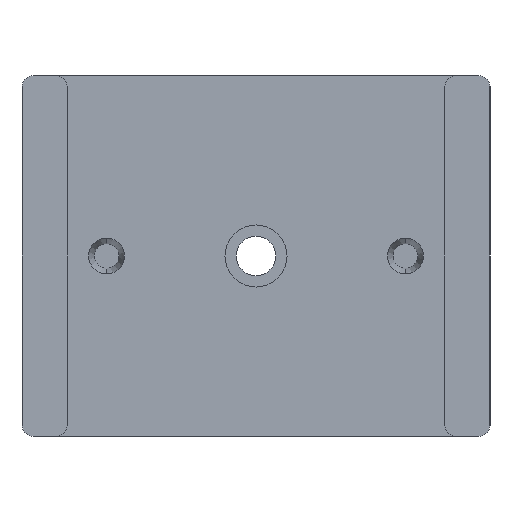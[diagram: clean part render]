
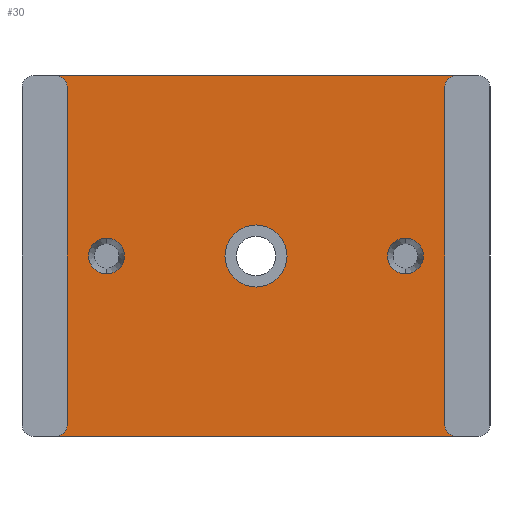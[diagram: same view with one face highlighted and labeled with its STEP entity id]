
A CAD part, front view. The second image highlights one B-rep face of the part: STEP entity #30.
In plain terms, the highlighted planar face has unit normal (0, -1, 0).
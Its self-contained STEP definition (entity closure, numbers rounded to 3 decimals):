
#30 = ADVANCED_FACE ( 'NONE', ( #596, #665, #176, #75 ), #1009, .F. ) ;
#38 = VECTOR ( 'NONE', #120, 1000. ) ;
#68 = CARTESIAN_POINT ( 'NONE',  ( 0., -16., 0. ) ) ;
#74 = CIRCLE ( 'NONE', #88, 2. ) ;
#75 = FACE_OUTER_BOUND ( 'NONE', #748, .T. ) ;
#88 = AXIS2_PLACEMENT_3D ( 'NONE', #875, #564, #329 ) ;
#89 = CARTESIAN_POINT ( 'NONE',  ( -33.5, -16., 30. ) ) ;
#91 = CARTESIAN_POINT ( 'NONE',  ( -33.5, -16., -30. ) ) ;
#94 = CIRCLE ( 'NONE', #664, 3.183 ) ;
#118 = CARTESIAN_POINT ( 'NONE',  ( 35.5, -16., 30. ) ) ;
#120 = DIRECTION ( 'NONE',  ( 1., 0., 0. ) ) ;
#128 = DIRECTION ( 'NONE',  ( 0., 1., 0. ) ) ;
#136 = DIRECTION ( 'NONE',  ( 0., 1., 0. ) ) ;
#137 = DIRECTION ( 'NONE',  ( 0., 0., 1. ) ) ;
#145 = CARTESIAN_POINT ( 'NONE',  ( -26.5, -16., -3.183 ) ) ;
#147 = VERTEX_POINT ( 'NONE', #266 ) ;
#161 = CIRCLE ( 'NONE', #586, 2. ) ;
#176 = FACE_BOUND ( 'NONE', #278, .T. ) ;
#183 = EDGE_CURVE ( 'NONE', #807, #994, #989, .T. ) ;
#190 = ORIENTED_EDGE ( 'NONE', *, *, #782, .T. ) ;
#198 = VERTEX_POINT ( 'NONE', #829 ) ;
#204 = CARTESIAN_POINT ( 'NONE',  ( -41.5, -16., -32. ) ) ;
#207 = DIRECTION ( 'NONE',  ( 0., 1., 0. ) ) ;
#211 = DIRECTION ( 'NONE',  ( 0., 0., 1. ) ) ;
#212 = EDGE_LOOP ( 'NONE', ( #448, #626 ) ) ;
#230 = DIRECTION ( 'NONE',  ( 0., 0., 1. ) ) ;
#241 = ORIENTED_EDGE ( 'NONE', *, *, #242, .T. ) ;
#242 = EDGE_CURVE ( 'NONE', #566, #402, #161, .T. ) ;
#257 = VECTOR ( 'NONE', #798, 1000. ) ;
#266 = CARTESIAN_POINT ( 'NONE',  ( 0., -16., 5.5 ) ) ;
#267 = CARTESIAN_POINT ( 'NONE',  ( 0., -16., 0. ) ) ;
#271 = CARTESIAN_POINT ( 'NONE',  ( 0., -16., -5.5 ) ) ;
#278 = EDGE_LOOP ( 'NONE', ( #947, #190 ) ) ;
#300 = EDGE_CURVE ( 'NONE', #587, #402, #767, .T. ) ;
#329 = DIRECTION ( 'NONE',  ( 0., 0., 1. ) ) ;
#341 = DIRECTION ( 'NONE',  ( 0., 1., 0. ) ) ;
#372 = DIRECTION ( 'NONE',  ( 0., 0., 1. ) ) ;
#375 = CARTESIAN_POINT ( 'NONE',  ( 0., -16., 0. ) ) ;
#379 = EDGE_CURVE ( 'NONE', #1007, #745, #676, .T. ) ;
#381 = DIRECTION ( 'NONE',  ( 0., 0., 1. ) ) ;
#383 = DIRECTION ( 'NONE',  ( 0., 0., -1. ) ) ;
#388 = ORIENTED_EDGE ( 'NONE', *, *, #952, .T. ) ;
#393 = VERTEX_POINT ( 'NONE', #89 ) ;
#400 = CARTESIAN_POINT ( 'NONE',  ( 33.5, -16., 32. ) ) ;
#402 = VERTEX_POINT ( 'NONE', #488 ) ;
#426 = DIRECTION ( 'NONE',  ( 0., 0., -1. ) ) ;
#438 = EDGE_CURVE ( 'NONE', #566, #393, #1004, .T. ) ;
#448 = ORIENTED_EDGE ( 'NONE', *, *, #979, .T. ) ;
#451 = AXIS2_PLACEMENT_3D ( 'NONE', #786, #861, #1025 ) ;
#475 = VERTEX_POINT ( 'NONE', #809 ) ;
#479 = DIRECTION ( 'NONE',  ( 0., 0., -1. ) ) ;
#486 = VECTOR ( 'NONE', #585, 1000. ) ;
#488 = CARTESIAN_POINT ( 'NONE',  ( -35.5, -16., -32. ) ) ;
#489 = EDGE_CURVE ( 'NONE', #587, #475, #74, .T. ) ;
#491 = DIRECTION ( 'NONE',  ( 0., 0., 1. ) ) ;
#536 = CARTESIAN_POINT ( 'NONE',  ( -26.5, -16., 0. ) ) ;
#564 = DIRECTION ( 'NONE',  ( 0., 1., 0. ) ) ;
#565 = ORIENTED_EDGE ( 'NONE', *, *, #183, .F. ) ;
#566 = VERTEX_POINT ( 'NONE', #91 ) ;
#577 = CARTESIAN_POINT ( 'NONE',  ( -33.5, -16., 32. ) ) ;
#585 = DIRECTION ( 'NONE',  ( -1., 0., 0. ) ) ;
#586 = AXIS2_PLACEMENT_3D ( 'NONE', #672, #128, #211 ) ;
#587 = VERTEX_POINT ( 'NONE', #944 ) ;
#596 = FACE_BOUND ( 'NONE', #1010, .T. ) ;
#600 = ORIENTED_EDGE ( 'NONE', *, *, #816, .T. ) ;
#614 = VERTEX_POINT ( 'NONE', #271 ) ;
#619 = CARTESIAN_POINT ( 'NONE',  ( 26.5, -16., -3.183 ) ) ;
#626 = ORIENTED_EDGE ( 'NONE', *, *, #379, .T. ) ;
#627 = ORIENTED_EDGE ( 'NONE', *, *, #675, .F. ) ;
#630 = CARTESIAN_POINT ( 'NONE',  ( -26.5, -16., 0. ) ) ;
#658 = CIRCLE ( 'NONE', #890, 3.183 ) ;
#664 = AXIS2_PLACEMENT_3D ( 'NONE', #630, #783, #867 ) ;
#665 = FACE_BOUND ( 'NONE', #212, .T. ) ;
#667 = AXIS2_PLACEMENT_3D ( 'NONE', #536, #922, #230 ) ;
#668 = ORIENTED_EDGE ( 'NONE', *, *, #489, .T. ) ;
#671 = CARTESIAN_POINT ( 'NONE',  ( -41.5, -16., 32. ) ) ;
#672 = CARTESIAN_POINT ( 'NONE',  ( -35.5, -16., -30. ) ) ;
#675 = EDGE_CURVE ( 'NONE', #147, #614, #750, .T. ) ;
#676 = CIRCLE ( 'NONE', #1027, 3.183 ) ;
#681 = CARTESIAN_POINT ( 'NONE',  ( 26.5, -16., 3.183 ) ) ;
#684 = AXIS2_PLACEMENT_3D ( 'NONE', #118, #207, #137 ) ;
#685 = CARTESIAN_POINT ( 'NONE',  ( -26.5, -16., 3.183 ) ) ;
#727 = VERTEX_POINT ( 'NONE', #145 ) ;
#742 = AXIS2_PLACEMENT_3D ( 'NONE', #267, #810, #426 ) ;
#745 = VERTEX_POINT ( 'NONE', #619 ) ;
#748 = EDGE_LOOP ( 'NONE', ( #957, #388, #565, #600, #925, #241, #837, #668 ) ) ;
#750 = CIRCLE ( 'NONE', #742, 5.5 ) ;
#752 = CARTESIAN_POINT ( 'NONE',  ( 35.5, -16., 32. ) ) ;
#755 = DIRECTION ( 'NONE',  ( 0., 1., 0. ) ) ;
#767 = LINE ( 'NONE', #204, #486 ) ;
#770 = EDGE_CURVE ( 'NONE', #614, #147, #984, .T. ) ;
#773 = DIRECTION ( 'NONE',  ( 0., -1., 0. ) ) ;
#780 = CARTESIAN_POINT ( 'NONE',  ( -35.5, -16., 32. ) ) ;
#782 = EDGE_CURVE ( 'NONE', #973, #727, #868, .T. ) ;
#783 = DIRECTION ( 'NONE',  ( 0., 1., 0. ) ) ;
#786 = CARTESIAN_POINT ( 'NONE',  ( -35.5, -16., 30. ) ) ;
#791 = LINE ( 'NONE', #400, #856 ) ;
#798 = DIRECTION ( 'NONE',  ( 0., 0., 1. ) ) ;
#800 = CARTESIAN_POINT ( 'NONE',  ( 26.5, -16., 0. ) ) ;
#807 = VERTEX_POINT ( 'NONE', #780 ) ;
#809 = CARTESIAN_POINT ( 'NONE',  ( 33.5, -16., -30. ) ) ;
#810 = DIRECTION ( 'NONE',  ( 0., -1., 0. ) ) ;
#816 = EDGE_CURVE ( 'NONE', #807, #393, #846, .T. ) ;
#829 = CARTESIAN_POINT ( 'NONE',  ( 33.5, -16., 30. ) ) ;
#833 = EDGE_CURVE ( 'NONE', #727, #973, #94, .T. ) ;
#837 = ORIENTED_EDGE ( 'NONE', *, *, #300, .F. ) ;
#846 = CIRCLE ( 'NONE', #451, 2. ) ;
#856 = VECTOR ( 'NONE', #479, 1000. ) ;
#861 = DIRECTION ( 'NONE',  ( 0., 1., 0. ) ) ;
#864 = ORIENTED_EDGE ( 'NONE', *, *, #770, .F. ) ;
#867 = DIRECTION ( 'NONE',  ( 0., 0., 1. ) ) ;
#868 = CIRCLE ( 'NONE', #667, 3.183 ) ;
#870 = EDGE_CURVE ( 'NONE', #198, #475, #791, .T. ) ;
#875 = CARTESIAN_POINT ( 'NONE',  ( 35.5, -16., -30. ) ) ;
#890 = AXIS2_PLACEMENT_3D ( 'NONE', #899, #755, #372 ) ;
#892 = AXIS2_PLACEMENT_3D ( 'NONE', #375, #136, #381 ) ;
#899 = CARTESIAN_POINT ( 'NONE',  ( 26.5, -16., 0. ) ) ;
#922 = DIRECTION ( 'NONE',  ( 0., 1., 0. ) ) ;
#925 = ORIENTED_EDGE ( 'NONE', *, *, #438, .F. ) ;
#944 = CARTESIAN_POINT ( 'NONE',  ( 35.5, -16., -32. ) ) ;
#947 = ORIENTED_EDGE ( 'NONE', *, *, #833, .T. ) ;
#948 = AXIS2_PLACEMENT_3D ( 'NONE', #68, #773, #383 ) ;
#952 = EDGE_CURVE ( 'NONE', #198, #994, #963, .T. ) ;
#957 = ORIENTED_EDGE ( 'NONE', *, *, #870, .F. ) ;
#963 = CIRCLE ( 'NONE', #684, 2. ) ;
#973 = VERTEX_POINT ( 'NONE', #685 ) ;
#979 = EDGE_CURVE ( 'NONE', #745, #1007, #658, .T. ) ;
#984 = CIRCLE ( 'NONE', #948, 5.5 ) ;
#989 = LINE ( 'NONE', #671, #38 ) ;
#994 = VERTEX_POINT ( 'NONE', #752 ) ;
#1004 = LINE ( 'NONE', #577, #257 ) ;
#1007 = VERTEX_POINT ( 'NONE', #681 ) ;
#1009 = PLANE ( 'NONE',  #892 ) ;
#1010 = EDGE_LOOP ( 'NONE', ( #864, #627 ) ) ;
#1025 = DIRECTION ( 'NONE',  ( 0., 0., 1. ) ) ;
#1027 = AXIS2_PLACEMENT_3D ( 'NONE', #800, #341, #491 ) ;
